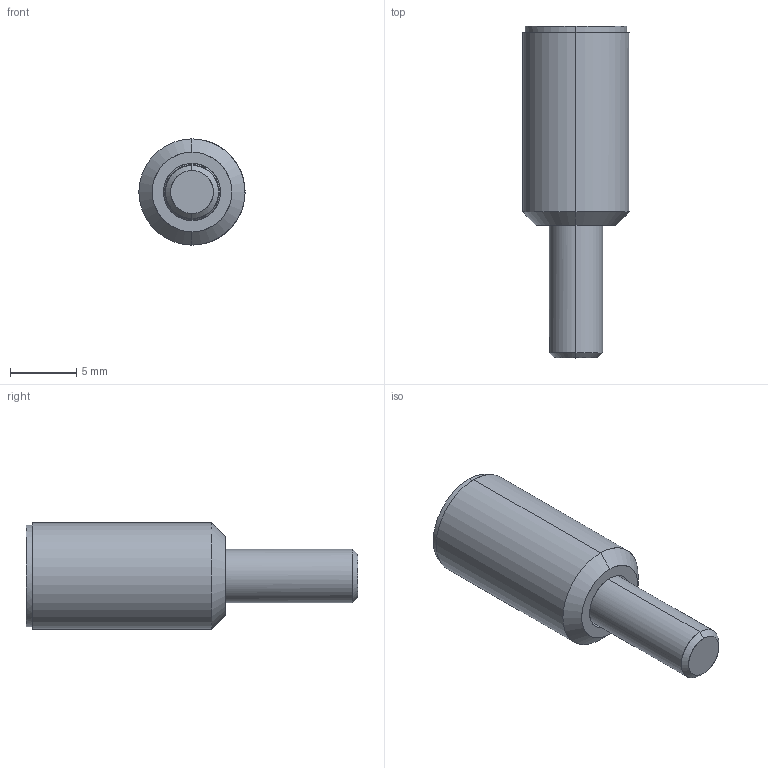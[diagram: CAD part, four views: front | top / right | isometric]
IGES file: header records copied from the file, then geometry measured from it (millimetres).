
Start section: START RECORD GO HERE.
Global section: file name: po150425.igs; native system: DASSAULT SYSTEMES CATIA V5 R20 - www.3ds.com; preprocessor: CATIA Version 5 Release 20 ; author: Utente; organization: NB04-ASUS; date: 20201103.211139; units: millimetre
Bounding box: 8 x 25 x 8 mm (x, y, z)
Surface area: 1021.8 mm2 (no closed solid volume)
Topology: 0 solids, 0 shells, 36 faces, 150 edges, 148 vertices
Faces by surface type: revolution 20, plane 16
